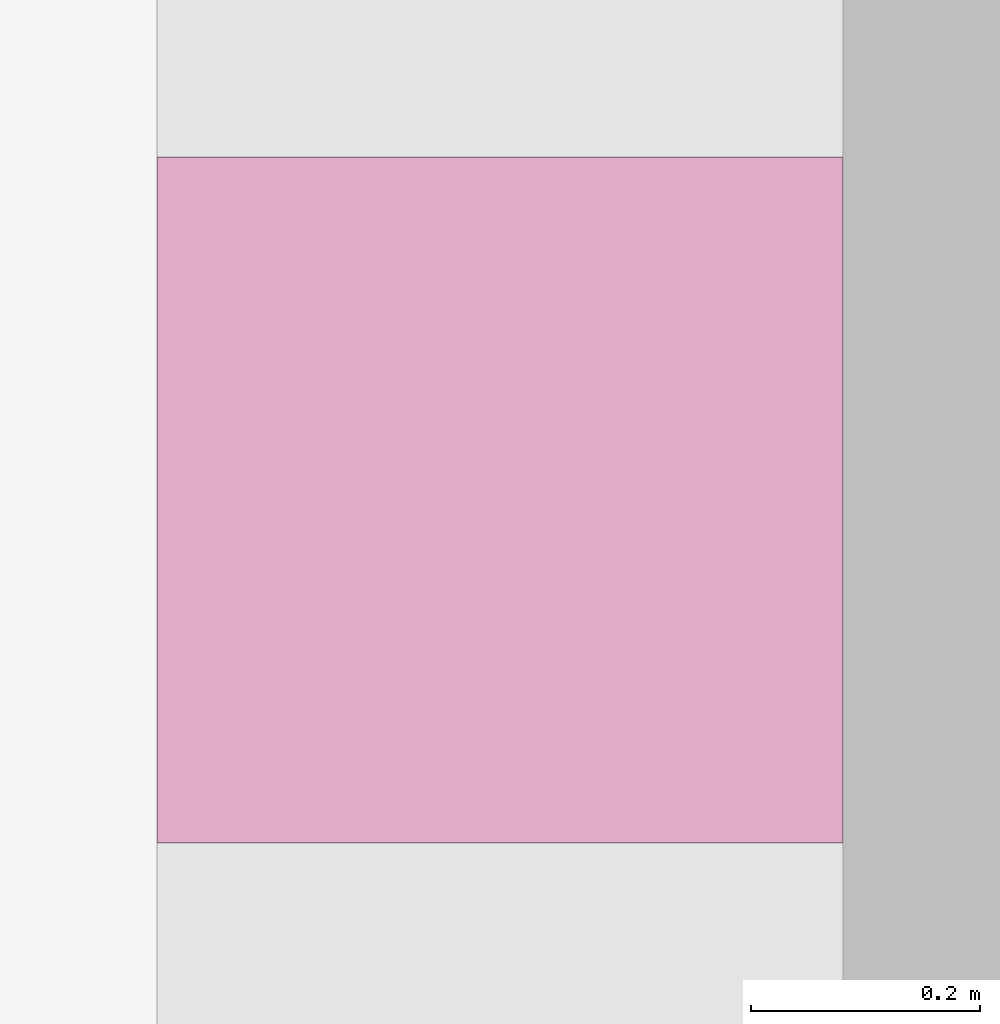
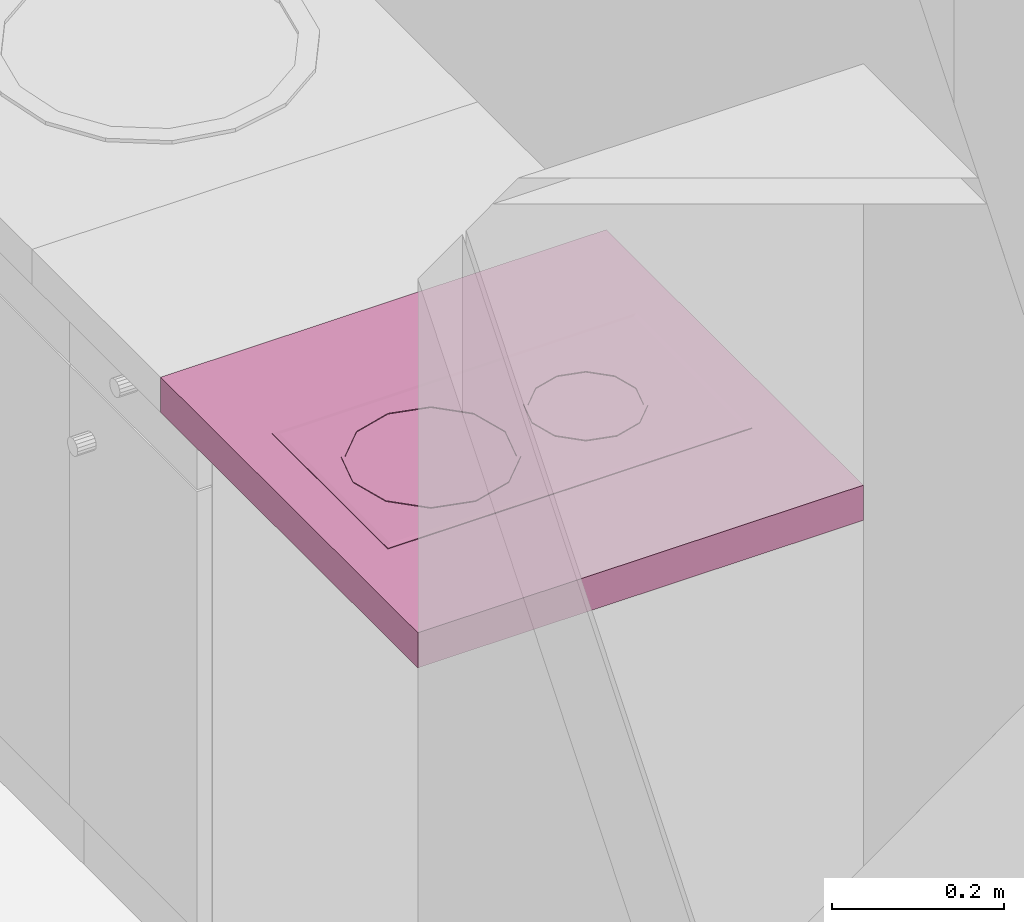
# One storey, part 160 of 165: 1 furnishing.
"""IFC2X3 building model written with IfcOpenShell, lengths in millimetres."""

from ifc_helpers import new_model, entity, si_unit, converted_unit, money_unit, direction, frame, origin_with_axes, place, context, subcontext, project, spatial, faceted_brep, source, transform, mapped, material, material_list, type_object, element, save


model = new_model("IFC2X3")

# Units and contexts
model_context = context("Model", 3, precision=1e-05, world=origin_with_axes(), true_north=direction((0.0, 1.0)))
body_context = subcontext(model_context, "Body", "Model", "MODEL_VIEW")
ifc_project = project(units=[si_unit("LENGTHUNIT", "METRE", prefix="MILLI"), si_unit("AREAUNIT", "SQUARE_METRE"), si_unit("VOLUMEUNIT", "CUBIC_METRE"), converted_unit("PLANEANGLEUNIT", "DEGREE", entity("IfcPlaneAngleMeasure", 0.0174532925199), si_unit("PLANEANGLEUNIT", "RADIAN"), dimensions=[0, 0, 0, 0, 0, 0, 0]), si_unit("SOLIDANGLEUNIT", "STERADIAN"), money_unit("USD"), converted_unit("TIMEUNIT", "Year", entity("IfcTimeMeasure", 31556926.0), si_unit("TIMEUNIT", "SECOND"), dimensions=[0, 0, 0, 0, 0, 0, 0]), si_unit("MASSUNIT", "GRAM"), si_unit("THERMODYNAMICTEMPERATUREUNIT", "DEGREE_CELSIUS"), si_unit("LUMINOUSINTENSITYUNIT", "LUMEN")], contexts=[model_context])

# Site, building, storey
site_placement = place(None, origin_with_axes())
site = spatial("IfcSite", under=ifc_project, at=site_placement, Name="Site", CompositionType="ELEMENT")
building_placement = place(site_placement, origin_with_axes())
building = spatial("IfcBuilding", under=site, at=building_placement, Name="Building", CompositionType="ELEMENT")
storey_placement = place(building_placement, frame((0.0, 0.0, 6300.0), z_axis=(0.0, 0.0, 1.0), x_axis=(1.0, 0.0, 0.0)))
storey = spatial("IfcBuildingStorey", under=building, at=storey_placement, Name="4KORRUS", CompositionType="ELEMENT", Elevation=6300.0)

# Furnishing
ifc_material = material(Name="Background")
ifc_material_list = material_list([ifc_material])
furnishing_element_type = type_object("IfcFurnishingElementType", Name="Built-in Cooktops 19")
shared_shape = source(origin_with_axes(), body_context, "Body", "Brep", [
    faceted_brep([(0.0, 0.0, 850.0), (600.0, 0.0, 850.0), (600.0, 0.0, 900.0), (0.0, 0.0, 900.0), (0.0, 600.0, 850.0), (600.0, 600.0, 850.0), (600.0, 600.0, 900.0), (0.0, 600.0, 900.0)], [[[0, 1, 2, 3]], [[0, 4, 5, 1]], [[1, 5, 6, 2]], [[3, 2, 6, 7]], [[4, 0, 3, 7]], [[5, 4, 7, 6]]]),
    faceted_brep([(165.0, 55.0, 900.0), (165.0, 545.0, 900.0), (435.0, 545.0, 900.0), (435.0, 55.0, 900.0), (165.0, 55.0, 900.8), (165.0, 545.0, 900.8), (435.0, 545.0, 900.8), (435.0, 55.0, 900.8), (171.806, 61.806, 902.0), (171.806, 538.194, 902.0), (428.194, 538.194, 902.0), (428.194, 61.806, 902.0)], [[[0, 1, 2, 3]], [[1, 0, 4, 5]], [[2, 1, 5, 6]], [[3, 2, 6, 7]], [[0, 3, 7, 4]], [[5, 4, 8, 9]], [[6, 5, 9, 10]], [[7, 6, 10, 11]], [[4, 7, 11, 8]], [[10, 9, 8, 11]]]),
    faceted_brep([(195.0, 409.27, 902.0), (209.067, 356.77, 902.0), (209.067, 356.77, 903.0), (195.0, 409.27, 903.0), (209.067, 461.77, 902.0), (247.5, 500.203, 902.0), (300.0, 514.27, 902.0), (352.5, 500.203, 902.0), (390.933, 461.77, 902.0), (405.0, 409.27, 902.0), (390.933, 356.77, 902.0), (352.5, 318.337, 902.0), (300.0, 304.27, 902.0), (247.5, 318.337, 902.0), (200.0, 409.27, 902.0), (213.397, 359.27, 902.0), (250.0, 322.667, 902.0), (300.0, 309.27, 902.0), (350.0, 322.667, 902.0), (386.603, 359.27, 902.0), (400.0, 409.27, 902.0), (386.603, 459.27, 902.0), (350.0, 495.873, 902.0), (300.0, 509.27, 902.0), (250.0, 495.873, 902.0), (213.397, 459.27, 902.0), (247.5, 318.337, 903.0), (300.0, 304.27, 903.0), (352.5, 318.337, 903.0), (390.933, 356.77, 903.0), (405.0, 409.27, 903.0), (390.933, 461.77, 903.0), (352.5, 500.203, 903.0), (300.0, 514.27, 903.0), (247.5, 500.203, 903.0), (209.067, 461.77, 903.0), (200.0, 409.27, 903.0), (213.397, 459.27, 903.0), (250.0, 495.873, 903.0), (300.0, 509.27, 903.0), (350.0, 495.873, 903.0), (386.603, 459.27, 903.0), (400.0, 409.27, 903.0), (386.603, 359.27, 903.0), (350.0, 322.667, 903.0), (300.0, 309.27, 903.0), (250.0, 322.667, 903.0), (213.397, 359.27, 903.0)], [[[0, 1, 2, 3]], [[0, 4, 5, 6, 7, 8, 9, 10, 11, 12, 13, 1], [14, 15, 16, 17, 18, 19, 20, 21, 22, 23, 24, 25]], [[1, 13, 26, 2]], [[3, 2, 26, 27, 28, 29, 30, 31, 32, 33, 34, 35], [36, 37, 38, 39, 40, 41, 42, 43, 44, 45, 46, 47]], [[4, 0, 3, 35]], [[5, 4, 35, 34]], [[6, 5, 34, 33]], [[7, 6, 33, 32]], [[8, 7, 32, 31]], [[9, 8, 31, 30]], [[10, 9, 30, 29]], [[11, 10, 29, 28]], [[12, 11, 28, 27]], [[13, 12, 27, 26]], [[15, 14, 36, 47]], [[16, 15, 47, 46]], [[17, 16, 46, 45]], [[18, 17, 45, 44]], [[19, 18, 44, 43]], [[20, 19, 43, 42]], [[21, 20, 42, 41]], [[22, 21, 41, 40]], [[23, 22, 40, 39]], [[24, 23, 39, 38]], [[25, 24, 38, 37]], [[14, 25, 37, 36]]]),
    faceted_brep([(227.5, 200.53, 902.0), (237.213, 164.28, 902.0), (237.213, 164.28, 903.0), (227.5, 200.53, 903.0), (237.213, 236.78, 902.0), (263.75, 263.317, 902.0), (300.0, 273.03, 902.0), (336.25, 263.317, 902.0), (362.787, 236.78, 902.0), (372.5, 200.53, 902.0), (362.787, 164.28, 902.0), (336.25, 137.743, 902.0), (300.0, 128.03, 902.0), (263.75, 137.743, 902.0), (232.5, 200.53, 902.0), (241.543, 166.78, 902.0), (266.25, 142.073, 902.0), (300.0, 133.03, 902.0), (333.75, 142.073, 902.0), (358.457, 166.78, 902.0), (367.5, 200.53, 902.0), (358.457, 234.28, 902.0), (333.75, 258.987, 902.0), (300.0, 268.03, 902.0), (266.25, 258.987, 902.0), (241.543, 234.28, 902.0), (263.75, 137.743, 903.0), (300.0, 128.03, 903.0), (336.25, 137.743, 903.0), (362.787, 164.28, 903.0), (372.5, 200.53, 903.0), (362.787, 236.78, 903.0), (336.25, 263.317, 903.0), (300.0, 273.03, 903.0), (263.75, 263.317, 903.0), (237.213, 236.78, 903.0), (232.5, 200.53, 903.0), (241.543, 234.28, 903.0), (266.25, 258.987, 903.0), (300.0, 268.03, 903.0), (333.75, 258.987, 903.0), (358.457, 234.28, 903.0), (367.5, 200.53, 903.0), (358.457, 166.78, 903.0), (333.75, 142.073, 903.0), (300.0, 133.03, 903.0), (266.25, 142.073, 903.0), (241.543, 166.78, 903.0)], [[[0, 1, 2, 3]], [[0, 4, 5, 6, 7, 8, 9, 10, 11, 12, 13, 1], [14, 15, 16, 17, 18, 19, 20, 21, 22, 23, 24, 25]], [[1, 13, 26, 2]], [[3, 2, 26, 27, 28, 29, 30, 31, 32, 33, 34, 35], [36, 37, 38, 39, 40, 41, 42, 43, 44, 45, 46, 47]], [[4, 0, 3, 35]], [[5, 4, 35, 34]], [[6, 5, 34, 33]], [[7, 6, 33, 32]], [[8, 7, 32, 31]], [[9, 8, 31, 30]], [[10, 9, 30, 29]], [[11, 10, 29, 28]], [[12, 11, 28, 27]], [[13, 12, 27, 26]], [[15, 14, 36, 47]], [[16, 15, 47, 46]], [[17, 16, 46, 45]], [[18, 17, 45, 44]], [[19, 18, 44, 43]], [[20, 19, 43, 42]], [[21, 20, 42, 41]], [[22, 21, 41, 40]], [[23, 22, 40, 39]], [[24, 23, 39, 38]], [[25, 24, 38, 37]], [[14, 25, 37, 36]]]),
])
furnishing_placement = place(storey_placement, frame((5709.70329669, -14689.2398994, 0.0), z_axis=(0.0, 0.0, 1.0), x_axis=(0.0, 1.0, 0.0)))
element("IfcFurnishingElement", 1, at=furnishing_placement, inside=storey, type_object=furnishing_element_type, material=ifc_material_list, Name="FU - 007", context=body_context, shape_type="MappedRepresentation", body=[
    mapped(shared_shape, transform((0.0, 0.0, 0.0))),
])

save(model, "model.ifc")
